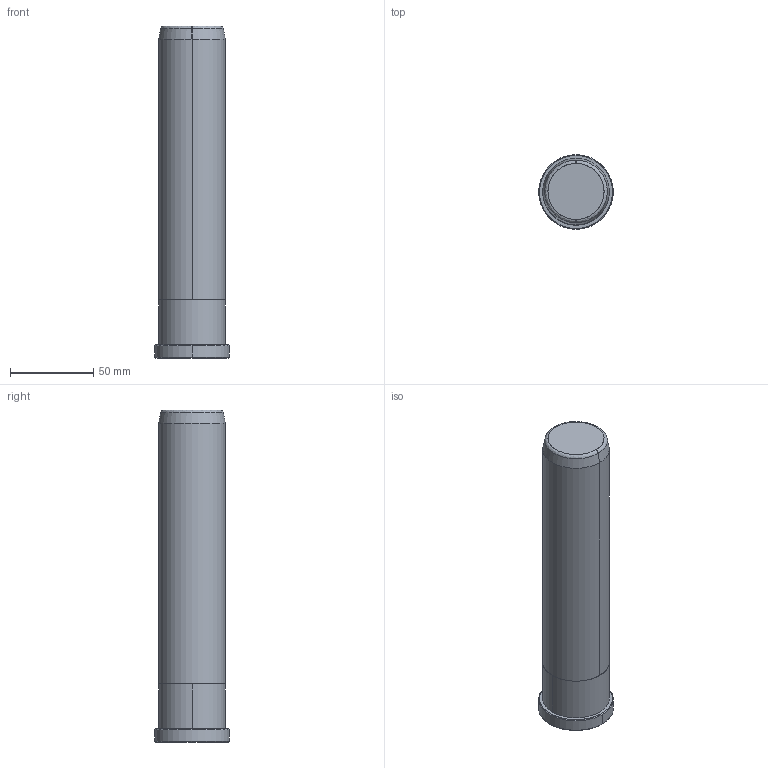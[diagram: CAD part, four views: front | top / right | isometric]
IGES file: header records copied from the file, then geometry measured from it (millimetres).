
Start section: START RECORD GO HERE.
Global section: file name: B80840200.igs; native system: DASSAULT SYSTEMES CATIA V5 R20 - www.3ds.com; preprocessor: CATIA Version 5 Release 20 ; author: Utente; organization: NB04-ASUS; date: 20200419.164543; units: millimetre
Bounding box: 45 x 45 x 200 mm (x, y, z)
Surface area: 28098.8 mm2 (no closed solid volume)
Topology: 0 solids, 0 shells, 20 faces, 80 edges, 80 vertices
Faces by surface type: revolution 16, plane 4
